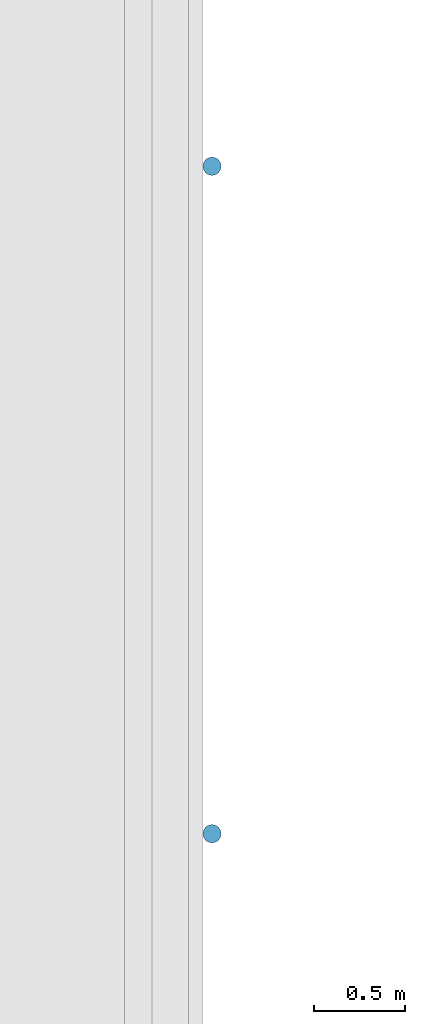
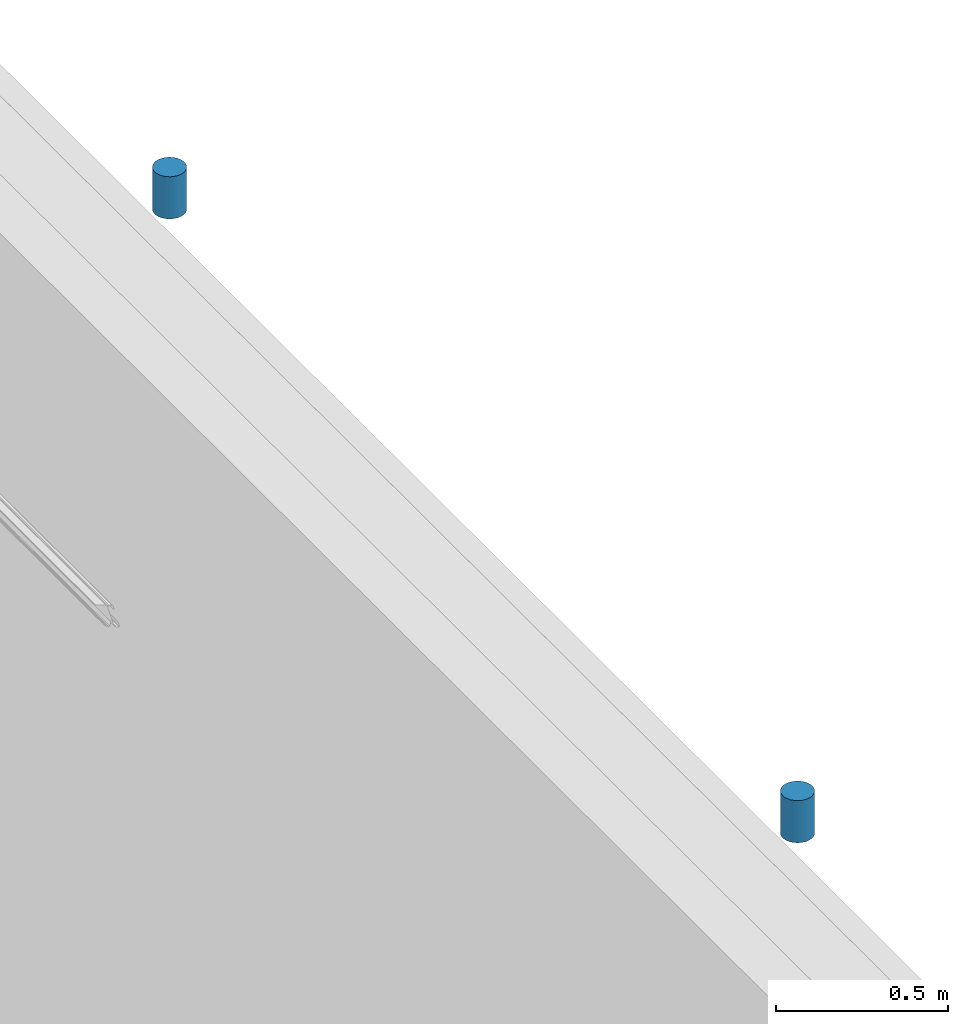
# One storey, part 3 of 62: 2 columns.
"""IFC2X3 building model written with IfcOpenShell, lengths in millimetres."""

from ifc_helpers import new_model, entity, si_unit, converted_unit, derived_unit, money_unit, direction, frame, origin_with_axes, origin_2d_with_axis, place, context, subcontext, project, spatial, circle, extrude, material, type_object, element, save


model = new_model("IFC2X3")

# Units and contexts
model_context = context("Model", 3, precision=0.01, world=origin_with_axes(), true_north=direction((0.0, 1.0)))
body_context = subcontext(model_context, "Body", "Model", "MODEL_VIEW")
ifc_project = project(units=[si_unit("LENGTHUNIT", "METRE", prefix="MILLI"), si_unit("AREAUNIT", "SQUARE_METRE"), si_unit("VOLUMEUNIT", "CUBIC_METRE"), converted_unit("PLANEANGLEUNIT", "DEGREE", entity("IfcPlaneAngleMeasure", 0.0174532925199), si_unit("PLANEANGLEUNIT", "RADIAN"), dimensions=[0, 0, 0, 0, 0, 0, 0]), si_unit("SOLIDANGLEUNIT", "STERADIAN"), money_unit("EUR"), converted_unit("TIMEUNIT", "Year", entity("IfcTimeMeasure", 31556926.0), si_unit("TIMEUNIT", "SECOND"), dimensions=[0, 0, 1, 0, 0, 0, 0]), si_unit("MASSUNIT", "GRAM", prefix="KILO"), si_unit("THERMODYNAMICTEMPERATUREUNIT", "DEGREE_CELSIUS"), si_unit("LUMINOUSINTENSITYUNIT", "LUMEN"), si_unit("ENERGYUNIT", "JOULE", prefix="MEGA"), derived_unit("THERMALCONDUCTANCEUNIT", [(si_unit("POWERUNIT", "WATT"), 1), (si_unit("LENGTHUNIT", "METRE"), -1), (si_unit("THERMODYNAMICTEMPERATUREUNIT", "KELVIN"), -1)]), derived_unit("SPECIFICHEATCAPACITYUNIT", [(si_unit("ENERGYUNIT", "JOULE"), 1), (si_unit("MASSUNIT", "GRAM", prefix="KILO"), -1), (si_unit("THERMODYNAMICTEMPERATUREUNIT", "KELVIN"), -1)]), derived_unit("MASSDENSITYUNIT", [(si_unit("MASSUNIT", "GRAM", prefix="KILO"), 1), (si_unit("VOLUMEUNIT", "CUBIC_METRE"), -1)])], contexts=[model_context])

# Site, building, storey
site_placement = place(None, origin_with_axes())
site = spatial("IfcSite", under=ifc_project, at=site_placement, Name="KIRDE 14, ELVA", CompositionType="ELEMENT")
building_placement = place(site_placement, origin_with_axes())
building = spatial("IfcBuilding", under=site, at=building_placement, Name="PPA ja Päästeameti ühishoone", CompositionType="ELEMENT")
storey_placement = place(building_placement, origin_with_axes())
storey = spatial("IfcBuildingStorey", under=building, at=storey_placement, Name="Esimene korrus", CompositionType="ELEMENT", Elevation=0.0)

# Columns
ifc_material = material(Name="SBS Rullmaterjal")
column_type = type_object("IfcColumnType", Name="SBS Rullmaterjal D100", PredefinedType="COLUMN")
column_1_placement = place(storey_placement, frame((40524.705031, 6434.20373486, 3613.05755188), z_axis=(0.0, 0.0, 1.0), x_axis=(-2.0299477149e-08, 1.0, 0.0)))
element("IfcColumn", 1, at=column_1_placement, inside=storey, type_object=column_type, material=ifc_material, Name="RB post", ObjectType="COLUMN", context=body_context, shape_type="SweptSolid", body=[
    extrude(circle(Radius=50.0, at=origin_2d_with_axis()), frame((0.0, 0.0, 0.0), z_axis=(0.0, 0.0, -1.0), x_axis=(-1.0, 0.0, 0.0)), (0.0, 0.0, -1.0), 150.0),
])
column_2_placement = place(storey_placement, frame((40524.7051796, 2774.20373486, 3613.05755188), z_axis=(0.0, 0.0, 1.0), x_axis=(-2.02994780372e-08, 1.0, 0.0)))
element("IfcColumn", 2, at=column_2_placement, inside=storey, type_object=column_type, material=ifc_material, Name="RB post", ObjectType="COLUMN", context=body_context, shape_type="SweptSolid", body=[
    extrude(circle(Radius=50.0, at=origin_2d_with_axis()), origin_with_axes(), (0.0, 0.0, 1.0), 150.0),
])

save(model, "model.ifc")
